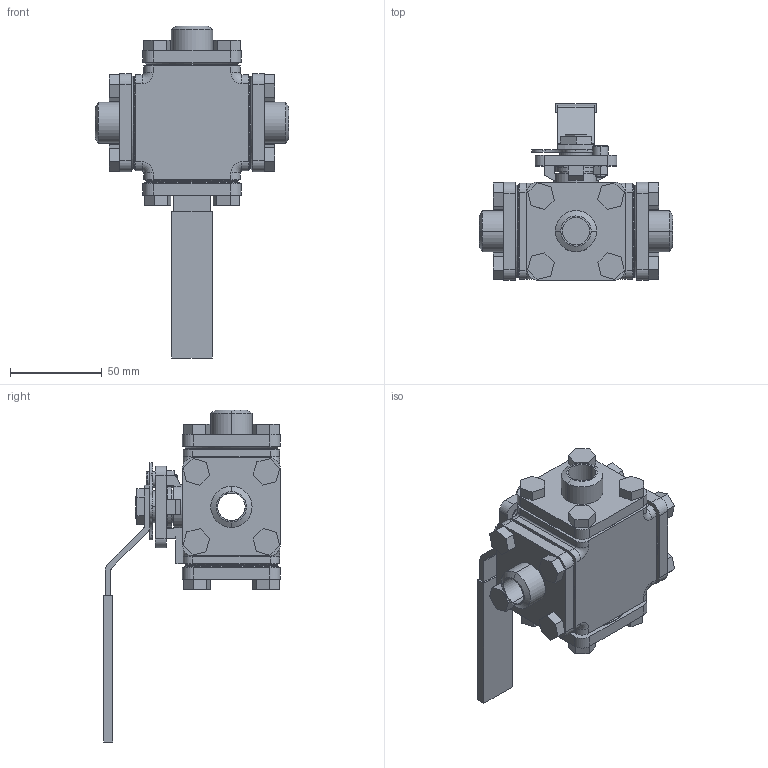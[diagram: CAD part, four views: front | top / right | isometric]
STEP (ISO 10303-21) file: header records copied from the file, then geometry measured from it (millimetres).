
FILE_DESCRIPTION (( 'STEP AP214' ), '1' );
FILE_NAME ('S350D DN15 BW HB.step', '2010-10-22T12:10:58', ( '' ), ( '' ), 'SwSTEP 2.0', 'SolidWorks 2010', '' );
FILE_SCHEMA (( 'AUTOMOTIVE_DESIGN' ));
Length unit declared in the file: millimetre
Products named in the file (7): S350D KK DN15 PN50; S350D Hendel DN15; S350D Blindflens DN15; S350D Buttweld DN15; DIN 912 M5 x 12 --- 12N_DIN 912 M5 x 12 --- 12N; Hexagon Nut ISO 4032 - M5 - D - N_Hexagon Nut ISO 4032 - M5 - D - N; S350D DN15 BW HB
Assembly tree (8 placements, depth 2):
  S350D DN15 BW HB
    S350D Blindflens DN15
    S350D Buttweld DN15  x3
    DIN 912 M5 x 12 --- 12N_DIN 912 M5 x 12 --- 12N
    Hexagon Nut ISO 4032 - M5 - D - N_Hexagon Nut ISO 4032 - M5 - D - N
    S350D KK DN15 PN50
    S350D Hendel DN15
Bounding box: 105.6 x 96.46 x 181.01 mm (x, y, z)
Volume: 315939.5 mm3; surface area: 80401.6 mm2
Topology: 8 solids, 9 shells, 520 faces, 1299 edges, 826 vertices
Faces by surface type: plane 332, cylinder 134, cone 42, torus 12
Entity records: 12935 total; most frequent: CARTESIAN_POINT 2278, DIRECTION 2210, ORIENTED_EDGE 2106, EDGE_CURVE 1053, AXIS2_PLACEMENT_3D 758, LINE 694, VECTOR 694, VERTEX_POINT 666
